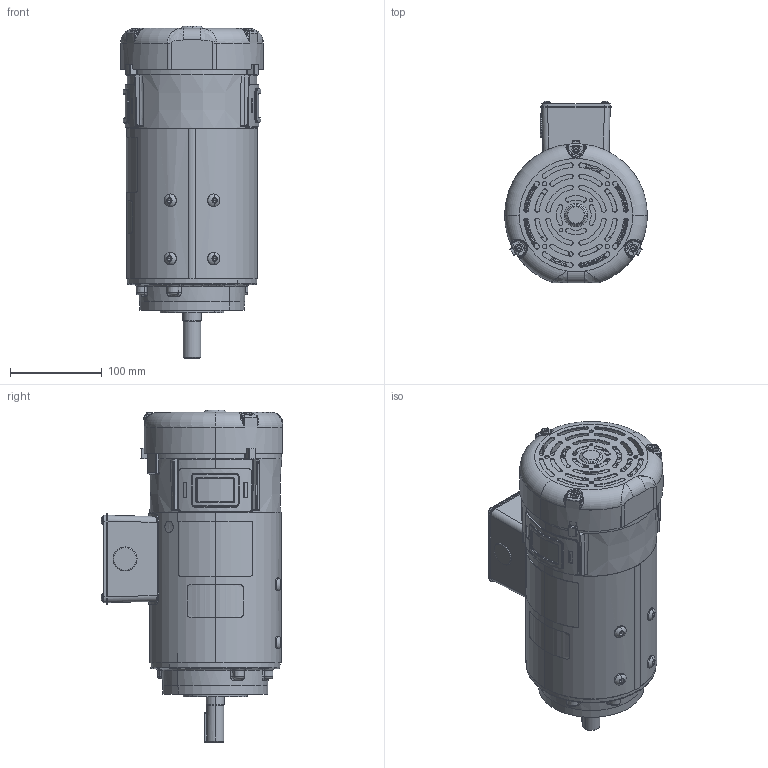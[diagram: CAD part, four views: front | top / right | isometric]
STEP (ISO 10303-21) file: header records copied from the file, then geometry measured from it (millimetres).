
FILE_DESCRIPTION (( 'STEP AP203' ), '1' );
FILE_NAME ('031898-108372_Rev04.STEP', '2018-02-21T06:30:39', ( '' ), ( '' ), 'SwSTEP 2.0', 'SolidWorks 2015', '' );
FILE_SCHEMA (( 'CONFIG_CONTROL_DESIGN' ));
Products named in the file (1): 031898-108372_Rev04
Bounding box: 155.7 x 198.38 x 362.03 mm (x, y, z)
Volume: 1304746.6 mm3; surface area: 568080.6 mm2
Topology: 37 solids, 37 shells, 3584 faces, 8818 edges, 5292 vertices
Faces by surface type: cylinder 1005, plane 931, bspline 824, cone 371, torus 338, sphere 115
Entity records: 140597 total; most frequent: CARTESIAN_POINT 61734, ORIENTED_EDGE 17358, DIRECTION 15366, EDGE_CURVE 8679, AXIS2_PLACEMENT_3D 6172, VERTEX_POINT 5286, EDGE_LOOP 3857, ADVANCED_FACE 3584
